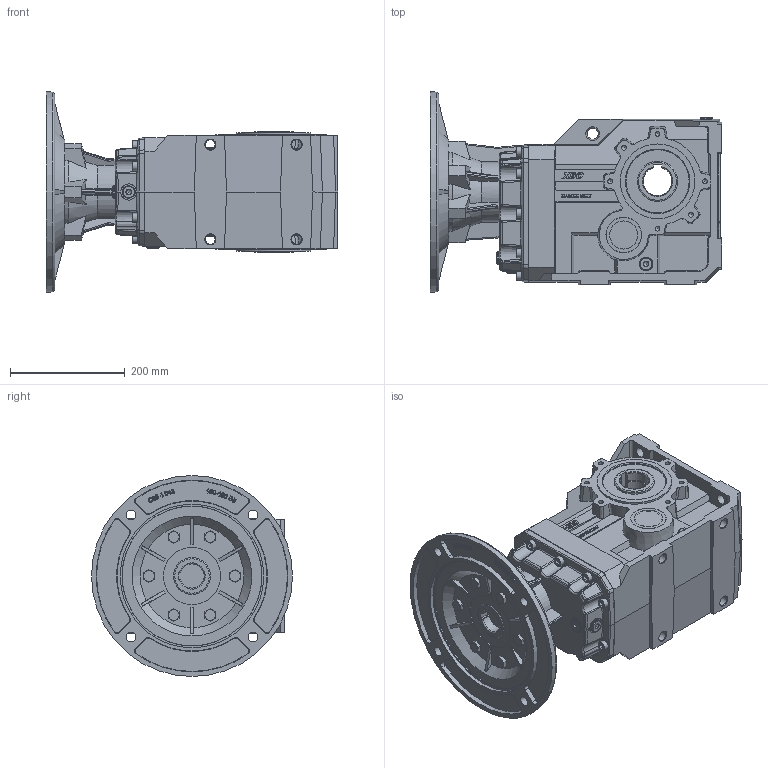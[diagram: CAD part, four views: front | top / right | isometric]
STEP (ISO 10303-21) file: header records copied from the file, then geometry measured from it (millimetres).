
FILE_DESCRIPTION( ( 'Unknown' ), '1' );
FILE_NAME( 'E:/services/configuratordownloads/customers/HYDROMEC/X/download/AE1D07BE218504A3D633C3957310/STEP/AE1D07BE218504A3D633C3957310.3d.stp', 'Unknown', ( 'Unknown' ), ( 'Unknown' ), 'PSStep 10.1', 'Unknown', ' ' );
FILE_SCHEMA( ( 'AUTOMOTIVE_DESIGN { 1 0 10303 214 1 1 1 1 }' ) );
Length unit declared in the file: millimetre
Products named in the file (2): X9C8800
Bounding box: 508 x 350 x 350 mm (x, y, z)
Volume: 18134844.8 mm3; surface area: 1030183.8 mm2
Topology: 2 solids, 30 shells, 1972 faces, 4831 edges, 3077 vertices
Faces by surface type: plane 1065, cylinder 343, bspline 228, cone 219, torus 73, extrusion 36, sphere 8
Full cylindrical faces by diameter (mm): 4.917 x2, 5.6 x8, 6 x8, 7 x8, 8.376 x22, 8.5 x7, 10.106 x6, 12 x8, 14.3 x7, 14.95 x10, 16 x10, 17 x11, 17.4 x6, 17.5 x8, 22 x14, 24 x5, 28 x2, 49 x1, 58.8 x1, 59 x1, 61.246 x1, 61.7 x1, 62 x2, 65 x2, 68 x1, 69.999 x2, 70.923 x1, 71.7 x1, 72 x2, 75 x1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
Entity records: 94156 total; most frequent: CARTESIAN_POINT 35324, ORIENTED_EDGE 8634, DIRECTION 8426, EDGE_CURVE 4317, AXIS2_PLACEMENT_3D 3025, VERTEX_POINT 2958, EDGE_LOOP 2536, VECTOR 2376
